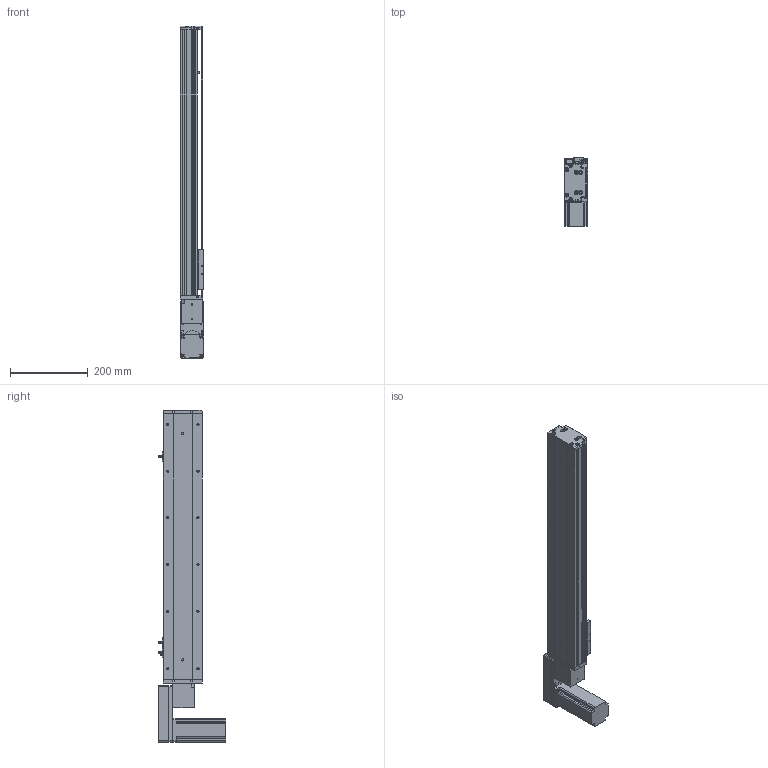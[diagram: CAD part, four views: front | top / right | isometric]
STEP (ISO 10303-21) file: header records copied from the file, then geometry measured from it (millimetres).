
FILE_DESCRIPTION (( 'STEP AP214' ), '1' );
FILE_NAME ('KSD100B-S500-MLB-CM.STEP', '2019-08-31T01:39:03', ( '微软用户' ), ( '微软中国' ), 'SwSTEP 2.0', 'SolidWorks 2014', '' );
FILE_SCHEMA (( 'AUTOMOTIVE_DESIGN' ));
Length unit declared in the file: millimetre
Products named in the file (12): 100宽马达安装板同步带左; 100宽同步带安装板半封闭; 100宽马达安装板同步带; 100遵傷啣肮祭湍; 100宽底板半封闭同步带500行程; KSD100B-S500-MLB-CM; 悵誘欶奻狟殏; 100宽马达安装板连板上下折丝杆同步带; 台达ECMA－C20604AS伺服电机; U倰嫖萇EEㄜSX672; 覜茼え100遵圉猾敕; 100宽防尘板500行程-同步带
Assembly tree (13 placements, depth 2):
  KSD100B-S500-MLB-CM
    100宽底板半封闭同步带500行程
    100遵傷啣肮祭湍
    100宽马达安装板同步带
    100宽同步带安装板半封闭
    100宽马达安装板同步带左
    100宽防尘板500行程-同步带
    覜茼え100遵圉猾敕
    U倰嫖萇EEㄜSX672  x3
    台达ECMA－C20604AS伺服电机
    100宽马达安装板连板上下折丝杆同步带
    悵誘欶奻狟殏
Bounding box: 61 x 174.7 x 853 mm (x, y, z)
Volume: 2014533.8 mm3; surface area: 640120 mm2
Topology: 14 solids, 14 shells, 1333 faces, 3724 edges, 2387 vertices
Faces by surface type: cylinder 651, plane 575, cone 107
Entity records: 46097 total; most frequent: CARTESIAN_POINT 8472, DIRECTION 6424, ORIENTED_EDGE 6140, EDGE_CURVE 3070, AXIS2_PLACEMENT_3D 2333, VERTEX_POINT 2011, LINE 1758, VECTOR 1758
